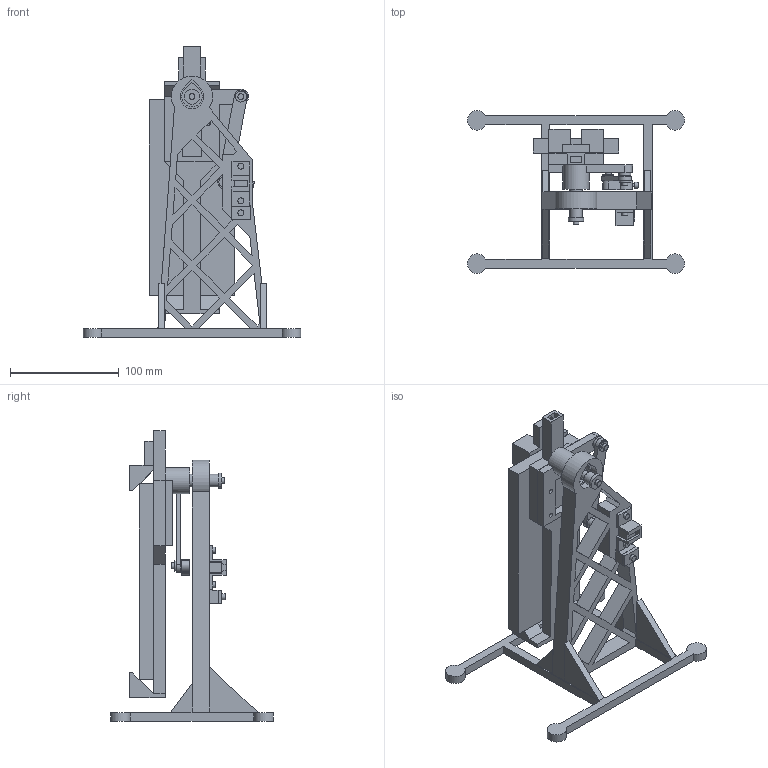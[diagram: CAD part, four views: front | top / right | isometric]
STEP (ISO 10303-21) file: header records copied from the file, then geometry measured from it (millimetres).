
FILE_DESCRIPTION(('Open CASCADE Model'),'2;1');
FILE_NAME('Open CASCADE Shape Model','2026-10-22T01:28:46',('Author'),( 'Open CASCADE'),'Open CASCADE STEP processor 7.9','Open CASCADE 7.9' ,'Unknown');
FILE_SCHEMA(('AUTOMOTIVE_DESIGN { 1 0 10303 214 1 1 1 1 }'));
Length unit declared in the file: millimetre
Products named in the file (28): phone_walker; stand; arm; clamp_spine; phone; crank; coupler; hardware_0; hardware_1; hardware_2; hardware_3; hardware_4; hardware_5; hardware_6; hardware_7; hardware_8; hardware_9; hardware_10; hardware_11; hardware_12; hardware_13; hardware_14; hardware_15; hardware_16; hardware_17; hardware_18; hardware_19; hardware_20
Assembly tree (27 placements, depth 2):
  phone_walker
    stand
    arm
    clamp_spine
    phone
    crank
    coupler
    hardware_0
    hardware_1
    hardware_2
    hardware_3
    hardware_4
    hardware_5
    hardware_6
    hardware_7
    hardware_8
    hardware_9
    hardware_10
    hardware_11
    hardware_12
    hardware_13
    hardware_14
    hardware_15
    hardware_16
    hardware_17
    hardware_18
    hardware_19
    hardware_20
Bounding box: 199.93 x 149.95 x 267.56 mm (x, y, z)
Volume: 517115.6 mm3; surface area: 171305.7 mm2
Topology: 27 solids, 27 shells, 442 faces, 1066 edges, 710 vertices
Faces by surface type: plane 360, cylinder 82
Full cylindrical faces by diameter (mm): 2.5 x1, 3 x12, 3.4 x6, 4 x9, 5.5 x12, 6 x2, 6.3 x2, 7.95 x1, 8.3 x1, 8.35 x1, 10 x2, 11 x2, 11.6 x2, 14 x1, 24 x1
Entity records: 27226 total; most frequent: CARTESIAN_POINT 5242, DIRECTION 3780, LINE 2357, VECTOR 2357, ORIENTED_EDGE 2132, PCURVE 2132, DEFINITIONAL_REPRESENTATION 2132, EDGE_CURVE 1066
